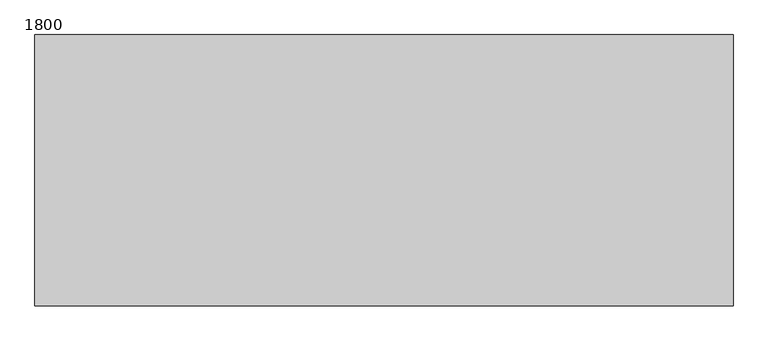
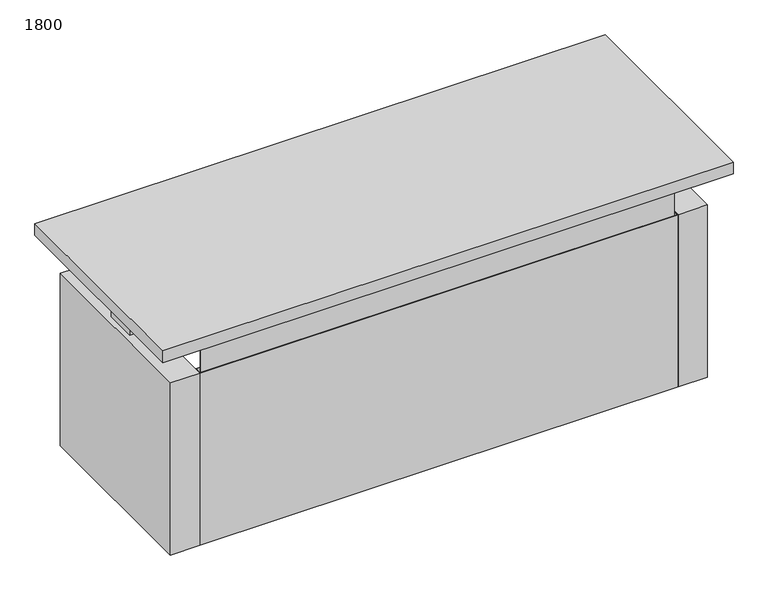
"""IFC4 building model written with IfcOpenShell, lengths in millimetres: furniture geometry, BK Library - Exlibris - Straight - Counter : 1800."""

from ifc_helpers import new_model, si_unit, frame, origin, origin_with_axes, place, context, project, spatial, polyline, outline, extrude, source, transform, mapped, element, save


def furniture_1800_709710ae(model_context):
    return source(origin(), model_context, "Body", "SweptSolid", [
        extrude(outline(polyline([(-737.75, 126.25), (-737.75, -123.75), (-864.75, -123.75), (-864.75, 126.25), (-737.75, 126.25)])), frame((0.0, 0.0, 687.0), z_axis=(0.0, 0.0, 1.0), x_axis=(1.0, 0.0, 0.0)), (0.0, 0.0, 1.0), 4.0),
        extrude(outline(polyline([(737.75, -123.75), (737.75, 126.25), (864.75, 126.25), (864.75, -123.75), (737.75, -123.75)])), frame((0.0, 0.0, 687.0), z_axis=(0.0, 0.0, 1.0), x_axis=(1.0, 0.0, 0.0)), (0.0, 0.0, 1.0), 4.0),
        extrude(outline(polyline([(718.7, -198.75), (718.7, -298.75), (-718.7, -298.75), (-718.7, -198.75), (718.7, -198.75)])), origin_with_axes(), (0.0, 0.0, 1.0), 22.0),
        extrude(outline(polyline([(718.7, -240.75), (718.7, -290.75), (-718.7, -290.75), (-718.7, -240.75), (718.7, -240.75)])), frame((0.0, 0.0, 139.0), z_axis=(0.0, 0.0, 1.0), x_axis=(1.0, 0.0, 0.0)), (0.0, 0.0, 1.0), 22.0),
        extrude(outline(polyline([(-900.0, -350.0), (-900.0, 350.0), (900.0, 350.0), (900.0, -350.0), (-900.0, -350.0)])), frame((0.0, 0.0, 691.0), z_axis=(0.0, 0.0, 1.0), x_axis=(1.0, 0.0, 0.0)), (0.0, 0.0, 1.0), 39.0),
        extrude(outline(polyline([(-847.5, 302.5), (-755.0, 302.5), (-755.0, -300.0), (-847.5, -300.0), (-847.5, 302.5)])), origin_with_axes(), (0.0, 0.0, 1.0), 575.0000153),
        extrude(outline(polyline([(847.5, -300.0), (755.0, -300.0), (755.0, 302.5), (847.5, 302.5), (847.5, -300.0)])), origin_with_axes(), (0.0, 0.0, 1.0), 575.0000153),
        extrude(outline(polyline([(-753.75, -277.95), (-753.75, -298.75), (753.75, -298.75), (753.75, -277.95), (738.7, -277.95), (738.7, -276.7), (755.0, -276.7), (755.0, -300.0), (-755.0, -300.0), (-755.0, -276.7), (-738.7, -276.7), (-738.7, -277.95), (-753.75, -277.95)])), origin_with_axes(), (0.0, 0.0, 1.0), 575.0000153),
        extrude(outline(polyline([(-747.5, -293.75), (-747.5, -290.75), (747.5, -290.75), (747.5, -293.75), (-747.5, -293.75)])), frame((0.0, 0.0, 139.0), z_axis=(0.0, 0.0, 1.0), x_axis=(1.0, 0.0, 0.0)), (0.0, 0.0, 1.0), 552.0),
        extrude(outline(polyline([(-771.25, 51.25), (-771.25, -48.75), (-831.25, -48.75), (-831.25, 51.25), (-771.25, 51.25)])), frame((0.0, 0.0, 575.0000153), z_axis=(0.0, 0.0, 1.0), x_axis=(1.0, 0.0, 0.0)), (0.0, 0.0, 1.0), 111.9999847),
        extrude(outline(polyline([(831.25, 51.25), (831.25, -48.75), (771.25, -48.75), (771.25, 51.25), (831.25, 51.25)])), frame((0.0, 0.0, 575.0000153), z_axis=(0.0, 0.0, 1.0), x_axis=(1.0, 0.0, 0.0)), (0.0, 0.0, 1.0), 111.9999847),
    ])


if __name__ == "__main__":
    model = new_model("IFC4")
    model_context = context("Model", 3, world=origin())
    ifc_project = project(units=[si_unit("LENGTHUNIT", "METRE", prefix="MILLI")], contexts=[model_context])
    site = spatial("IfcSite", under=ifc_project)
    building = spatial("IfcBuilding", under=site)
    placement = place(None, origin())
    furniture_1800_shape = furniture_1800_709710ae(model_context)
    element("IfcFurniture", 1, ObjectType="BK Library - Exlibris - Straight - Counter : 1800", at=placement, inside=building, context=model_context, shape_type="MappedRepresentation", body=[
        mapped(furniture_1800_shape, transform((0.0, 0.0, 0.0), x_axis=(1.0, 0.0, 0.0), y_axis=(0.0, 1.0, 0.0), z_axis=(0.0, 0.0, 1.0))),
    ])
    save(model, "model.ifc")
